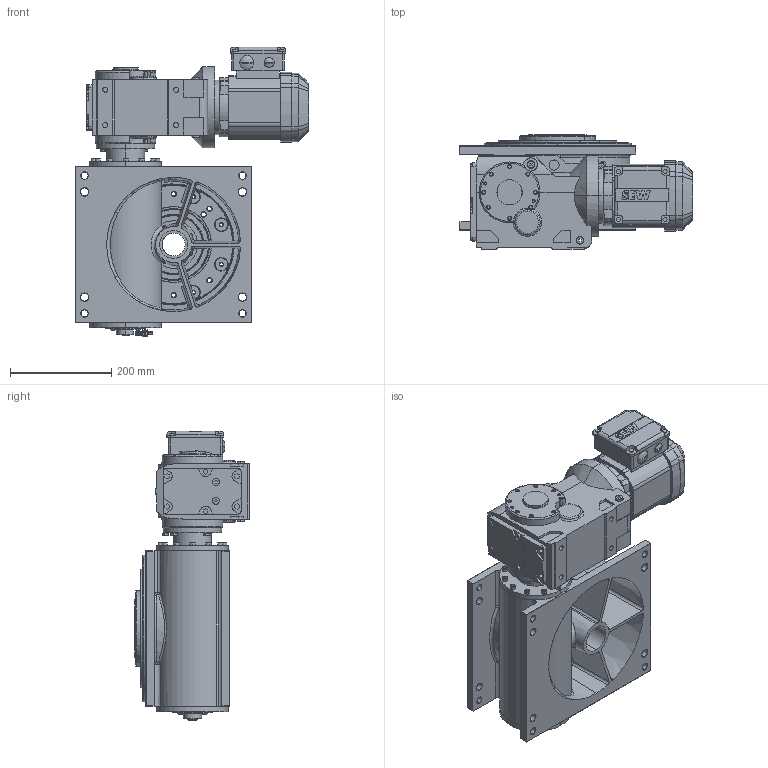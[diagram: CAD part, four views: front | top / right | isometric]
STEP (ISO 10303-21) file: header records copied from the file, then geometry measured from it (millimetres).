
FILE_DESCRIPTION (( 'STEP AP214' ), '1' );
FILE_NAME ('M235_SEW_KA47DRS71S4_D1_08.STEP', '2020-06-17T05:28:58', ( '' ), ( '' ), 'SwSTEP 2.0', 'SolidWorks 2020', '' );
FILE_SCHEMA (( 'AUTOMOTIVE_DESIGN' ));
Length unit declared in the file: millimetre
Products named in the file (1): M235_SEW_KA47DRS71S4_D1_08
Bounding box: 460.5 x 226 x 572.46 mm (x, y, z)
Surface area: 1103954.2 mm2 (no closed solid volume)
Topology: 0 solids, 81 shells, 1613 faces, 4813 edges, 3205 vertices
Faces by surface type: plane 639, cylinder 504, cone 251, bspline 109, torus 90, sphere 20
Entity records: 82981 total; most frequent: CARTESIAN_POINT 22546, DIRECTION 9037, ORIENTED_EDGE 8246, EDGE_CURVE 4774, AXIS2_PLACEMENT_3D 3312, VERTEX_POINT 3205, LINE 2413, VECTOR 2413
